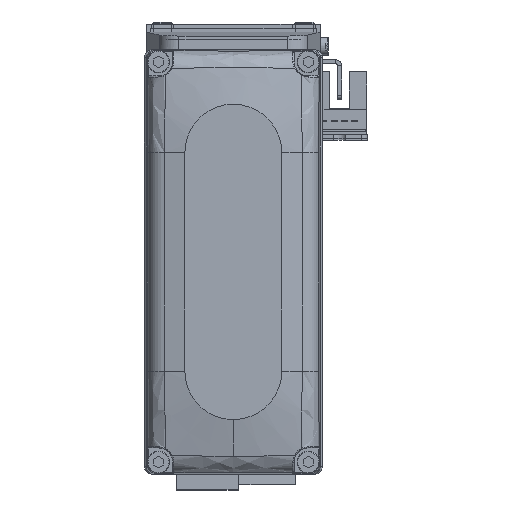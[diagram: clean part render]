
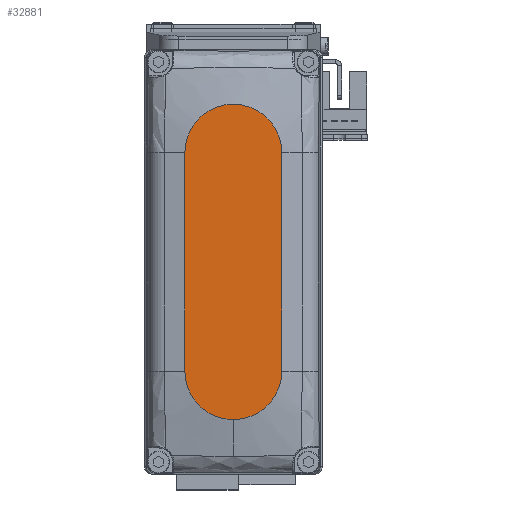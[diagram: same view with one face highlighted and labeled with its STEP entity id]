
A CAD part, top view. The second image highlights one B-rep face of the part: STEP entity #32881.
In plain terms, the highlighted planar face has unit normal (0, 0, 1).
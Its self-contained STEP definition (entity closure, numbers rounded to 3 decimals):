
#44 = DIRECTION ( 'NONE',  ( 1., 0., 0. ) ) ;
#2729 = EDGE_LOOP ( 'NONE', ( #23814, #33804, #33932, #24292, #35220 ) ) ;
#3074 = CARTESIAN_POINT ( 'NONE',  ( -27., 0., 25. ) ) ;
#3122 = DIRECTION ( 'NONE',  ( 1., 0., 0. ) ) ;
#3384 = CIRCLE ( 'NONE', #25643, 12. ) ;
#3579 = VERTEX_POINT ( 'NONE', #9064 ) ;
#4678 = VERTEX_POINT ( 'NONE', #20643 ) ;
#5172 = VERTEX_POINT ( 'NONE', #33146 ) ;
#6453 = AXIS2_PLACEMENT_3D ( 'NONE', #38481, #11165, #23322 ) ;
#7167 = CARTESIAN_POINT ( 'NONE',  ( 27., -12., 25. ) ) ;
#8930 = EDGE_CURVE ( 'NONE', #3579, #23913, #38886, .T. ) ;
#9064 = CARTESIAN_POINT ( 'NONE',  ( 27., 12., 25. ) ) ;
#11165 = DIRECTION ( 'NONE',  ( 0., 0., 1. ) ) ;
#11568 = CARTESIAN_POINT ( 'NONE',  ( -27., 12., 25. ) ) ;
#14159 = FACE_OUTER_BOUND ( 'NONE', #2729, .T. ) ;
#14284 = EDGE_CURVE ( 'NONE', #5172, #3579, #38206, .T. ) ;
#14746 = EDGE_CURVE ( 'NONE', #23913, #4678, #38232, .T. ) ;
#15194 = LINE ( 'NONE', #27354, #38349 ) ;
#15230 = DIRECTION ( 'NONE',  ( 0., 0., 1. ) ) ;
#16522 = CARTESIAN_POINT ( 'NONE',  ( 27., 0., 25. ) ) ;
#18271 = CARTESIAN_POINT ( 'NONE',  ( 27., 0., 25. ) ) ;
#20004 = VECTOR ( 'NONE', #23732, 1000. ) ;
#20643 = CARTESIAN_POINT ( 'NONE',  ( -27., -12., 25. ) ) ;
#21030 = AXIS2_PLACEMENT_3D ( 'NONE', #18271, #30429, #3122 ) ;
#21057 = AXIS2_PLACEMENT_3D ( 'NONE', #3074, #15230, #27385 ) ;
#21511 = CARTESIAN_POINT ( 'NONE',  ( -27., 12., 25. ) ) ;
#23322 = DIRECTION ( 'NONE',  ( 1., 0., 0. ) ) ;
#23732 = DIRECTION ( 'NONE',  ( -1., 0., 0. ) ) ;
#23814 = ORIENTED_EDGE ( 'NONE', *, *, #8930, .T. ) ;
#23913 = VERTEX_POINT ( 'NONE', #21511 ) ;
#24292 = ORIENTED_EDGE ( 'NONE', *, *, #34541, .T. ) ;
#25643 = AXIS2_PLACEMENT_3D ( 'NONE', #16522, #25684, #37841 ) ;
#25684 = DIRECTION ( 'NONE',  ( 0., 0., 1. ) ) ;
#26325 = PLANE ( 'NONE',  #6453 ) ;
#27354 = CARTESIAN_POINT ( 'NONE',  ( -27., -12., 25. ) ) ;
#27385 = DIRECTION ( 'NONE',  ( 1., 0., 0. ) ) ;
#29896 = VERTEX_POINT ( 'NONE', #7167 ) ;
#30429 = DIRECTION ( 'NONE',  ( 0., 0., 1. ) ) ;
#32881 = ADVANCED_FACE ( 'NONE', ( #14159 ), #26325, .T. ) ;
#33146 = CARTESIAN_POINT ( 'NONE',  ( 39., 0., 25. ) ) ;
#33804 = ORIENTED_EDGE ( 'NONE', *, *, #14746, .T. ) ;
#33932 = ORIENTED_EDGE ( 'NONE', *, *, #33943, .T. ) ;
#33943 = EDGE_CURVE ( 'NONE', #4678, #29896, #15194, .T. ) ;
#34541 = EDGE_CURVE ( 'NONE', #29896, #5172, #3384, .T. ) ;
#35220 = ORIENTED_EDGE ( 'NONE', *, *, #14284, .T. ) ;
#37841 = DIRECTION ( 'NONE',  ( 1., 0., 0. ) ) ;
#38206 = CIRCLE ( 'NONE', #21030, 12. ) ;
#38232 = CIRCLE ( 'NONE', #21057, 12. ) ;
#38349 = VECTOR ( 'NONE', #44, 1000. ) ;
#38481 = CARTESIAN_POINT ( 'NONE',  ( 0., 0., 25. ) ) ;
#38886 = LINE ( 'NONE', #11568, #20004 ) ;
